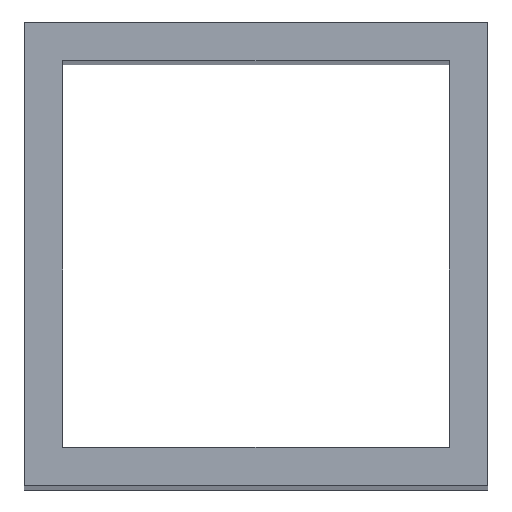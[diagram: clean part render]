
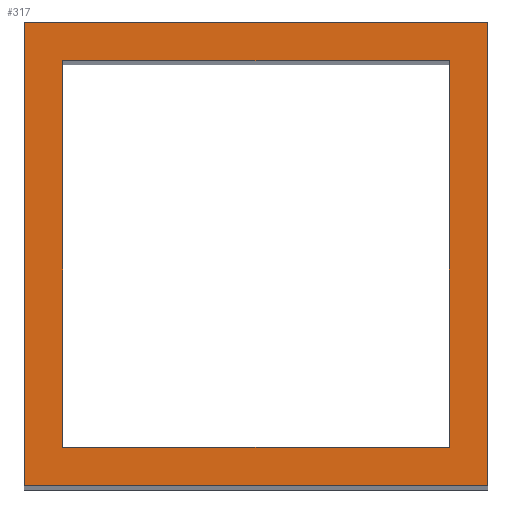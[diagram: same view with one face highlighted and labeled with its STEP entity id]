
A CAD part, top view. The second image highlights one B-rep face of the part: STEP entity #317.
In plain terms, the highlighted planar face has unit normal (0, 0, 1).
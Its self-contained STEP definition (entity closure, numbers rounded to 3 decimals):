
#6 = LINE ( 'NONE', #777, #923 ) ;
#14 = EDGE_LOOP ( 'NONE', ( #431, #108, #948, #99 ) ) ;
#15 = CARTESIAN_POINT ( 'NONE',  ( 12., 12., 60. ) ) ;
#21 = LINE ( 'NONE', #1045, #678 ) ;
#28 = PLANE ( 'NONE',  #217 ) ;
#55 = CARTESIAN_POINT ( 'NONE',  ( 11., 1., 60. ) ) ;
#60 = CARTESIAN_POINT ( 'NONE',  ( 11., 11., 60. ) ) ;
#61 = CARTESIAN_POINT ( 'NONE',  ( 0., 12., 60. ) ) ;
#63 = CARTESIAN_POINT ( 'NONE',  ( 1., 1., 60. ) ) ;
#65 = EDGE_LOOP ( 'NONE', ( #243, #424, #655, #265 ) ) ;
#75 = LINE ( 'NONE', #857, #322 ) ;
#99 = ORIENTED_EDGE ( 'NONE', *, *, #1011, .T. ) ;
#108 = ORIENTED_EDGE ( 'NONE', *, *, #213, .T. ) ;
#120 = VECTOR ( 'NONE', #168, 1000. ) ;
#168 = DIRECTION ( 'NONE',  ( 1., 0., 0. ) ) ;
#207 = DIRECTION ( 'NONE',  ( 0., 0., -1. ) ) ;
#211 = VERTEX_POINT ( 'NONE', #60 ) ;
#213 = EDGE_CURVE ( 'NONE', #416, #868, #604, .T. ) ;
#217 = AXIS2_PLACEMENT_3D ( 'NONE', #359, #207, #896 ) ;
#223 = EDGE_CURVE ( 'NONE', #1104, #607, #6, .T. ) ;
#241 = CARTESIAN_POINT ( 'NONE',  ( 0., 0., 60. ) ) ;
#243 = ORIENTED_EDGE ( 'NONE', *, *, #560, .F. ) ;
#265 = ORIENTED_EDGE ( 'NONE', *, *, #273, .F. ) ;
#273 = EDGE_CURVE ( 'NONE', #502, #211, #75, .T. ) ;
#288 = DIRECTION ( 'NONE',  ( 0., 1., 0. ) ) ;
#312 = LINE ( 'NONE', #745, #831 ) ;
#317 = ADVANCED_FACE ( 'NONE', ( #981, #892 ), #28, .F. ) ;
#322 = VECTOR ( 'NONE', #340, 1000. ) ;
#340 = DIRECTION ( 'NONE',  ( 0., 1., 0. ) ) ;
#359 = CARTESIAN_POINT ( 'NONE',  ( 0., 0., 60. ) ) ;
#411 = DIRECTION ( 'NONE',  ( 0., -1., 0. ) ) ;
#416 = VERTEX_POINT ( 'NONE', #873 ) ;
#424 = ORIENTED_EDGE ( 'NONE', *, *, #223, .F. ) ;
#431 = ORIENTED_EDGE ( 'NONE', *, *, #980, .T. ) ;
#438 = VECTOR ( 'NONE', #469, 1000. ) ;
#469 = DIRECTION ( 'NONE',  ( -1., 0., 0. ) ) ;
#496 = LINE ( 'NONE', #61, #773 ) ;
#502 = VERTEX_POINT ( 'NONE', #55 ) ;
#508 = CARTESIAN_POINT ( 'NONE',  ( 1., 11., 60. ) ) ;
#534 = CARTESIAN_POINT ( 'NONE',  ( 0., 12., 60. ) ) ;
#537 = LINE ( 'NONE', #544, #438 ) ;
#544 = CARTESIAN_POINT ( 'NONE',  ( 1., 11., 60. ) ) ;
#560 = EDGE_CURVE ( 'NONE', #607, #502, #1093, .T. ) ;
#604 = LINE ( 'NONE', #241, #610 ) ;
#607 = VERTEX_POINT ( 'NONE', #947 ) ;
#610 = VECTOR ( 'NONE', #1101, 1000. ) ;
#655 = ORIENTED_EDGE ( 'NONE', *, *, #740, .F. ) ;
#678 = VECTOR ( 'NONE', #288, 1000. ) ;
#719 = VERTEX_POINT ( 'NONE', #534 ) ;
#740 = EDGE_CURVE ( 'NONE', #211, #1104, #537, .T. ) ;
#745 = CARTESIAN_POINT ( 'NONE',  ( 0., 0., 60. ) ) ;
#772 = VERTEX_POINT ( 'NONE', #15 ) ;
#773 = VECTOR ( 'NONE', #1103, 1000. ) ;
#777 = CARTESIAN_POINT ( 'NONE',  ( 1., 1., 60. ) ) ;
#815 = EDGE_CURVE ( 'NONE', #868, #772, #21, .T. ) ;
#831 = VECTOR ( 'NONE', #1008, 1000. ) ;
#857 = CARTESIAN_POINT ( 'NONE',  ( 11., 1., 60. ) ) ;
#868 = VERTEX_POINT ( 'NONE', #1075 ) ;
#873 = CARTESIAN_POINT ( 'NONE',  ( 0., 0., 60. ) ) ;
#892 = FACE_BOUND ( 'NONE', #65, .T. ) ;
#896 = DIRECTION ( 'NONE',  ( -1., 0., 0. ) ) ;
#923 = VECTOR ( 'NONE', #411, 1000. ) ;
#947 = CARTESIAN_POINT ( 'NONE',  ( 1., 1., 60. ) ) ;
#948 = ORIENTED_EDGE ( 'NONE', *, *, #815, .T. ) ;
#980 = EDGE_CURVE ( 'NONE', #719, #416, #312, .T. ) ;
#981 = FACE_OUTER_BOUND ( 'NONE', #14, .T. ) ;
#1008 = DIRECTION ( 'NONE',  ( 0., -1., 0. ) ) ;
#1011 = EDGE_CURVE ( 'NONE', #772, #719, #496, .T. ) ;
#1045 = CARTESIAN_POINT ( 'NONE',  ( 12., 0., 60. ) ) ;
#1075 = CARTESIAN_POINT ( 'NONE',  ( 12., 0., 60. ) ) ;
#1093 = LINE ( 'NONE', #63, #120 ) ;
#1101 = DIRECTION ( 'NONE',  ( 1., 0., 0. ) ) ;
#1103 = DIRECTION ( 'NONE',  ( -1., 0., 0. ) ) ;
#1104 = VERTEX_POINT ( 'NONE', #508 ) ;
